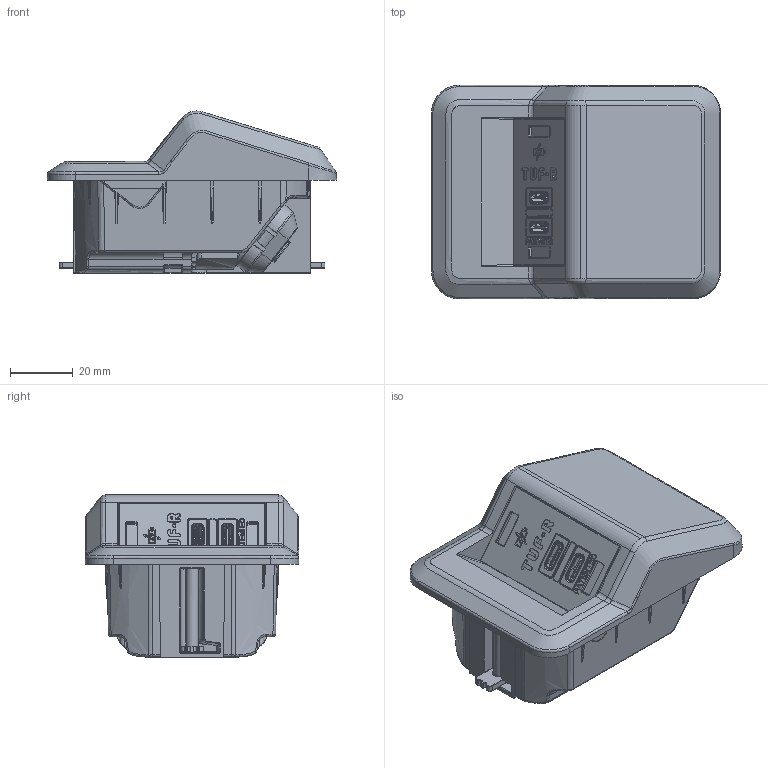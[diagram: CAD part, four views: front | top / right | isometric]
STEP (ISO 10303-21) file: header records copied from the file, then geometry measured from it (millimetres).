
FILE_DESCRIPTION (( 'STEP AP214' ), '1' );
FILE_NAME ('QikTrek-Square.STEP', '2025-04-09T11:24:10', ( '' ), ( '' ), 'SwSTEP 2.0', 'SolidWorks 2024', '' );
FILE_SCHEMA (( 'AUTOMOTIVE_DESIGN' ));
Length unit declared in the file: millimetre
Products named in the file (1): QikTrek-Square
Bounding box: 92 x 68 x 51.54 mm (x, y, z)
Volume: 188377.3 mm3; surface area: 43479.4 mm2
Topology: 4 solids, 27 shells, 4602 faces, 12317 edges, 7758 vertices
Faces by surface type: plane 2149, cylinder 1129, bspline 988, cone 147, torus 127, sphere 62
Entity records: 179376 total; most frequent: CARTESIAN_POINT 75404, ORIENTED_EDGE 24580, DIRECTION 17445, EDGE_CURVE 12290, VERTEX_POINT 7758, VECTOR 7043, LINE 7043, AXIS2_PLACEMENT_3D 5201
